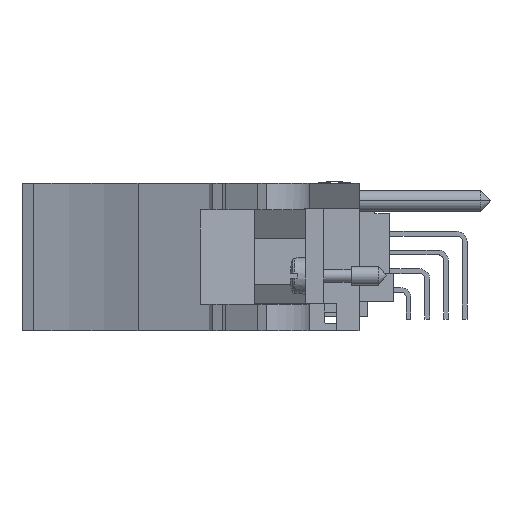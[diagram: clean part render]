
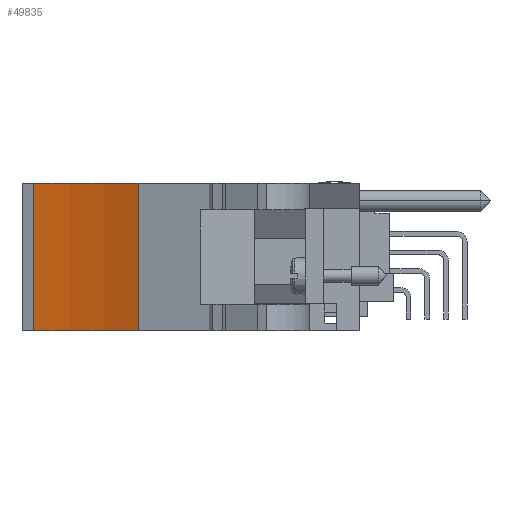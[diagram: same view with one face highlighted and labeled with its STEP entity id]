
A CAD part, front view. The second image highlights one B-rep face of the part: STEP entity #49835.
In plain terms, the highlighted cylindrical face has radius 51.46 mm (diameter 102.919 mm), a partial arc.
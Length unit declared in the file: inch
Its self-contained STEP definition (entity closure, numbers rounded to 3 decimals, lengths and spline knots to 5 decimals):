
#44795=DIRECTION('',(0.,0.,1.));
#44796=VECTOR('',#44795,0.788);
#44797=CARTESIAN_POINT('',(-5.16777,-4.12712,
-0.15731));
#44798=LINE('',#44797,#44796);
#44856=CARTESIAN_POINT('',(-6.04904,-5.95138,
-0.15743));
#44857=DIRECTION('',(0.,0.,1.));
#44858=DIRECTION('',(0.435,0.9,0.));
#44859=AXIS2_PLACEMENT_3D('',#44856,#44857,#44858);
#45247=CARTESIAN_POINT('',(-6.04904,-5.95143,
0.63057));
#45248=DIRECTION('',(0.,0.,1.));
#45249=DIRECTION('',(0.435,0.9,0.));
#45250=AXIS2_PLACEMENT_3D('',#45247,#45248,#45249);
#45563=DIRECTION('',(0.,0.,1.));
#45564=VECTOR('',#45563,0.788);
#45565=CARTESIAN_POINT('',(-5.72574,-3.95137,
-0.15729));
#45566=LINE('',#45565,#45564);
#48909=CARTESIAN_POINT('',(-5.16777,-4.12712,
-0.15731));
#48910=CARTESIAN_POINT('',(-5.72574,-3.95137,
-0.15729));
#48911=VERTEX_POINT('',#48909);
#48912=VERTEX_POINT('',#48910);
#48913=CARTESIAN_POINT('',(-5.16777,-4.12718,
0.63069));
#48914=CARTESIAN_POINT('',(-5.72574,-3.95142,
0.63071));
#48915=VERTEX_POINT('',#48913);
#48916=VERTEX_POINT('',#48914);
#49821=CARTESIAN_POINT('',(-6.04904,-5.95143,
0.63057));
#49822=DIRECTION('',(0.,0.,1.));
#49823=DIRECTION('',(0.,1.,0.));
#49824=AXIS2_PLACEMENT_3D('',#49821,#49822,#49823);
#49825=CYLINDRICAL_SURFACE('',#49824,2.02597);
#49827=ORIENTED_EDGE('',*,*,#49826,.T.);
#49829=ORIENTED_EDGE('',*,*,#49828,.T.);
#49831=ORIENTED_EDGE('',*,*,#49830,.F.);
#49832=ORIENTED_EDGE('',*,*,#49804,.F.);
#49833=EDGE_LOOP('',(#49827,#49829,#49831,#49832));
#49834=FACE_OUTER_BOUND('',#49833,.F.);
#49835=ADVANCED_FACE('',(#49834),#49825,.F.);
#44860=CIRCLE('',#44859,2.02597);
#45251=CIRCLE('',#45250,2.02597);
#49804=EDGE_CURVE('',#48911,#48915,#44798,.T.);
#49826=EDGE_CURVE('',#48911,#48912,#44860,.T.);
#49828=EDGE_CURVE('',#48912,#48916,#45566,.T.);
#49830=EDGE_CURVE('',#48915,#48916,#45251,.T.);
